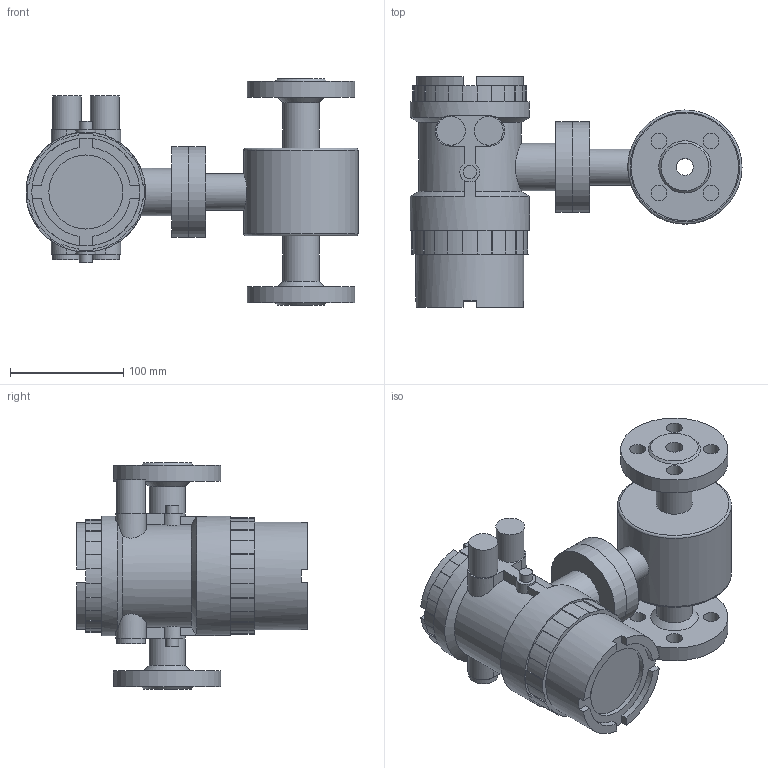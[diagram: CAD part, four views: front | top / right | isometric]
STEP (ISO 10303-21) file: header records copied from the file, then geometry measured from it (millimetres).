
FILE_DESCRIPTION( (''), '2;1');
FILE_NAME( 'QMKC_DN15.step', '2026-03-04T17:39:08+08:00', (''), (''), '', '', '');
FILE_SCHEMA (('AUTOMOTIVE_DESIGN { 1 0 10303 214 3 1 1 1 }'));
Length unit declared in the file: millimetre
Products named in the file (1): QMKC DN15
Bounding box: 293.75 x 204 x 200 mm (x, y, z)
Volume: 2597013.4 mm3; surface area: 222838 mm2
Topology: 2 solids, 2 shells, 218 faces, 580 edges, 390 vertices
Faces by surface type: plane 112, cylinder 96, cone 8, torus 2
Full cylindrical faces by diameter (mm): 11.6 x2, 14 x8, 15 x1, 25.5 x4, 32 x3, 42 x1, 65.5 x1, 80 x2, 95 x2, 95.5 x1, 101 x1, 105.9 x2
Entity records: 6724 total; most frequent: CARTESIAN_POINT 1291, DIRECTION 1150, ORIENTED_EDGE 1058, EDGE_CURVE 529, AXIS2_PLACEMENT_3D 426, VERTEX_POINT 373, LINE 298, VECTOR 298
